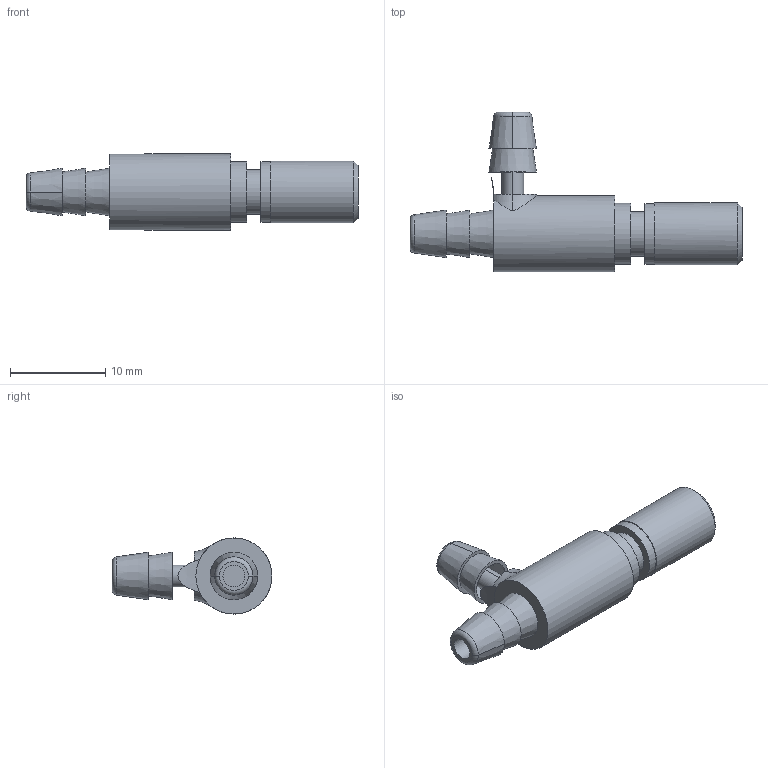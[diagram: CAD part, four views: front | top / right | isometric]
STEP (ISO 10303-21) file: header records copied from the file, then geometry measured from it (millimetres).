
FILE_DESCRIPTION(/* description */ ('SolidWorks IGES file using NURBS representation for surfaces '),/* implementation_level */ '2;1');
FILE_NAME(/* name */ 'K:\Normteile INVENTOR\Air-Logic\Needle Valves\F-2822-40-B85-KSS.IGS.ipt.stp',/* time_stamp */ '2020-05-27T10:41:46+02:00',/* author */ ('amarsh'),/* organization */ (''),/* preprocessor_version */ 'ST-DEVELOPER v18',/* originating_system */ 'Autodesk Inventor 2020',/* authorisation */ '');
FILE_SCHEMA (('AUTOMOTIVE_DESIGN { 1 0 10303 214 3 1 1 }'));
Length unit declared in the file: millimetre
Products named in the file (1): F-2822-40-B85-KSS.IGS
Bounding box: 34.9 x 16.8 x 8 mm (x, y, z)
Volume: 1271.2 mm3; surface area: 1134.7 mm2
Topology: 2 solids, 2 shells, 40 faces, 93 edges, 67 vertices
Faces by surface type: plane 14, cone 9, cylinder 9, torus 7, bspline 1
Full cylindrical faces by diameter (mm): 2.3 x1, 4.7 x1, 6.35 x1, 6.4 x1, 6.5 x1, 8 x1
Entity records: 1347 total; most frequent: CARTESIAN_POINT 316, DIRECTION 231, ORIENTED_EDGE 186, AXIS2_PLACEMENT_3D 106, EDGE_CURVE 93, VERTEX_POINT 67, CIRCLE 66, EDGE_LOOP 50
